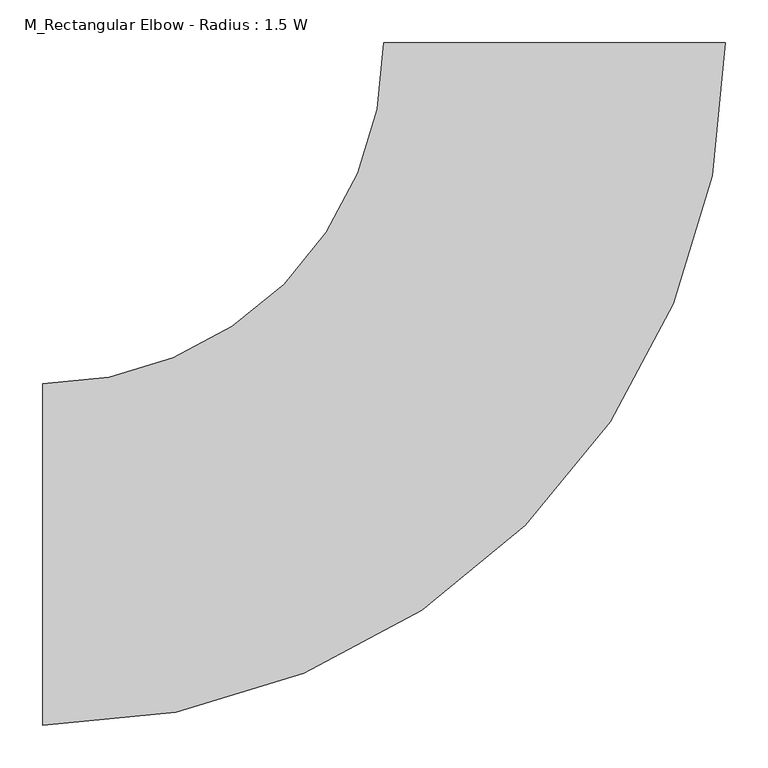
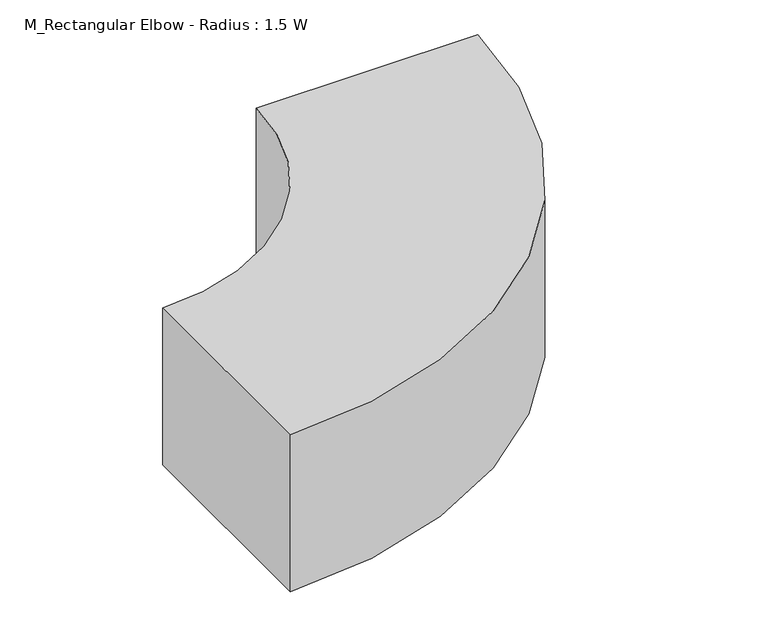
"""IFC4 building model written with IfcOpenShell, lengths in millimetres: duct fitting geometry, M_Rectangular Elbow - Radius : 1.5 W."""

from ifc_helpers import new_model, si_unit, point, frame, frame_2d, origin, place, context, project, spatial, polyline, circle_curve, trimmed, segment, composite_curve, outline, extrude, source, transform, mapped, element, save


def m_rectangular_elbow_radius_1_5_w_5e34a479(model_context):
    return source(origin(), model_context, "Body", "SweptSolid", [
        extrude(outline(composite_curve([segment(trimmed(circle_curve(frame_2d((-600.0, 600.0)), 800.0), [point((200.0, 600.0))], [point((-600.0, -200.0))], False, "CARTESIAN"), True, "CONTINUOUS"), segment(polyline([(-600.0, -200.0), (-600.0, 200.0)]), True, "CONTINUOUS"), segment(trimmed(circle_curve(frame_2d((-600.0, 600.0)), 400.0), [point((-600.0, 200.0))], [point((-200.0, 600.0))], True, "CARTESIAN"), True, "CONTINUOUS"), segment(polyline([(-200.0, 600.0), (200.0, 600.0)]), True, "CONTINUOUS")], self_intersect=False)), frame((0.0, 0.0, -150.0), z_axis=(0.0, 0.0, 1.0), x_axis=(1.0, 0.0, 0.0)), (0.0, 0.0, 1.0), 300.0),
    ])


if __name__ == "__main__":
    model = new_model("IFC4")
    model_context = context("Model", 3, world=origin())
    ifc_project = project(units=[si_unit("LENGTHUNIT", "METRE", prefix="MILLI")], contexts=[model_context])
    site = spatial("IfcSite", under=ifc_project)
    building = spatial("IfcBuilding", under=site)
    placement = place(None, origin())
    m_rectangular_elbow_radius_1_5_w_shape = m_rectangular_elbow_radius_1_5_w_5e34a479(model_context)
    element("IfcDuctFitting", 1, ObjectType="M_Rectangular Elbow - Radius : 1.5 W", at=placement, inside=building, context=model_context, shape_type="MappedRepresentation", body=[
        mapped(m_rectangular_elbow_radius_1_5_w_shape, transform((0.0, 0.0, 0.0), x_axis=(1.0, 0.0, 0.0), y_axis=(0.0, 1.0, 0.0), z_axis=(0.0, 0.0, 1.0))),
    ])
    save(model, "model.ifc")
